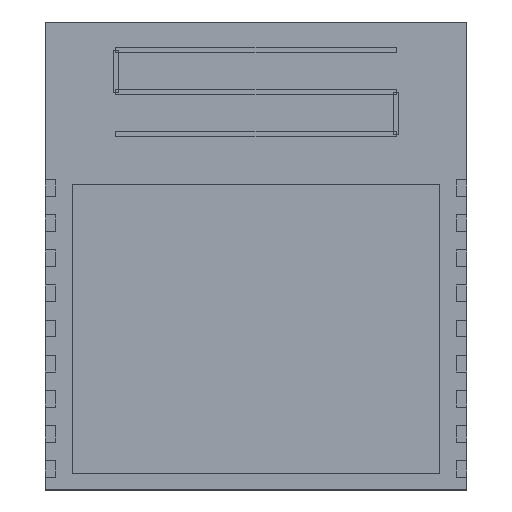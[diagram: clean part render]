
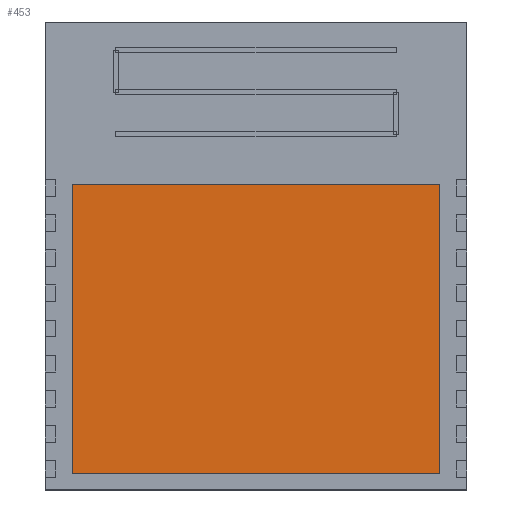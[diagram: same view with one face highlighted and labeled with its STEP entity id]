
A CAD part, top view. The second image highlights one B-rep face of the part: STEP entity #453.
In plain terms, the highlighted planar face has unit normal (0, 0, 1).
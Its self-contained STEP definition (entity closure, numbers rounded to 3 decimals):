
#324 = VERTEX_POINT('',#325);
#325 = CARTESIAN_POINT('',(-7.85,-9.3,3.35));
#331 = EDGE_CURVE('',#324,#332,#334,.T.);
#332 = VERTEX_POINT('',#333);
#333 = CARTESIAN_POINT('',(7.85,-9.3,3.35));
#334 = LINE('',#335,#336);
#335 = CARTESIAN_POINT('',(-7.85,-9.3,3.35));
#336 = VECTOR('',#337,1.);
#337 = DIRECTION('',(1.,0.,0.));
#362 = EDGE_CURVE('',#332,#363,#365,.T.);
#363 = VERTEX_POINT('',#364);
#364 = CARTESIAN_POINT('',(7.85,3.07,3.35));
#365 = LINE('',#366,#367);
#366 = CARTESIAN_POINT('',(7.85,-9.3,3.35));
#367 = VECTOR('',#368,1.);
#368 = DIRECTION('',(0.,1.,0.));
#393 = EDGE_CURVE('',#363,#394,#396,.T.);
#394 = VERTEX_POINT('',#395);
#395 = CARTESIAN_POINT('',(-7.85,3.07,3.35));
#396 = LINE('',#397,#398);
#397 = CARTESIAN_POINT('',(7.85,3.07,3.35));
#398 = VECTOR('',#399,1.);
#399 = DIRECTION('',(-1.,0.,0.));
#424 = EDGE_CURVE('',#394,#324,#425,.T.);
#425 = LINE('',#426,#427);
#426 = CARTESIAN_POINT('',(-7.85,3.07,3.35));
#427 = VECTOR('',#428,1.);
#428 = DIRECTION('',(0.,-1.,0.));
#453 = ADVANCED_FACE('',(#454),#460,.T.);
#454 = FACE_BOUND('',#455,.T.);
#455 = EDGE_LOOP('',(#456,#457,#458,#459));
#456 = ORIENTED_EDGE('',*,*,#331,.T.);
#457 = ORIENTED_EDGE('',*,*,#362,.T.);
#458 = ORIENTED_EDGE('',*,*,#393,.T.);
#459 = ORIENTED_EDGE('',*,*,#424,.T.);
#460 = PLANE('',#461);
#461 = AXIS2_PLACEMENT_3D('',#462,#463,#464);
#462 = CARTESIAN_POINT('',(0.,-3.115,3.35));
#463 = DIRECTION('',(0.,0.,1.));
#464 = DIRECTION('',(1.,0.,-0.));
